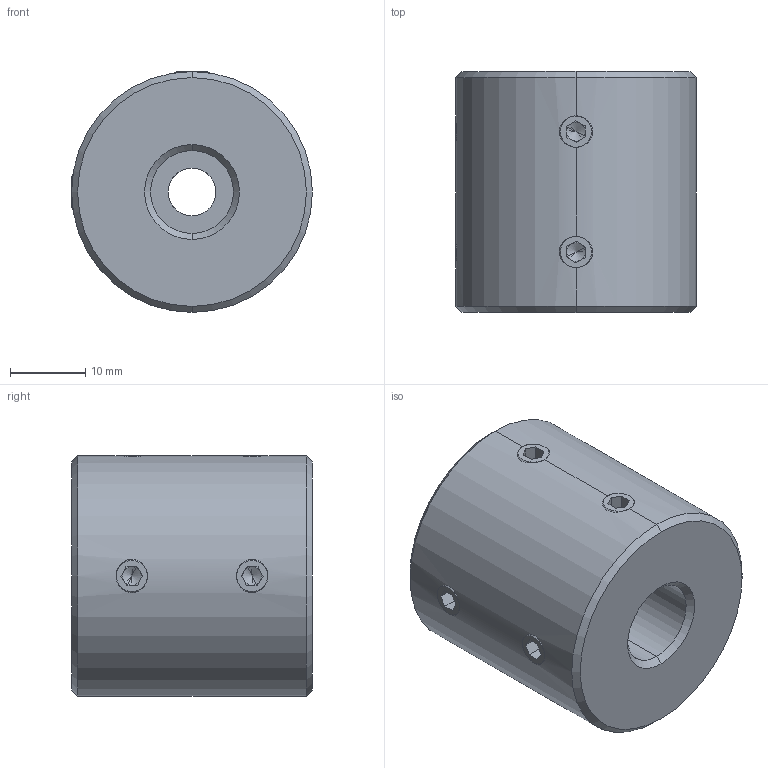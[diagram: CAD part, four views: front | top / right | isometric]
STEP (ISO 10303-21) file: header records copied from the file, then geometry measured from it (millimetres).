
FILE_DESCRIPTION (( 'STEP AP214' ), '1' );
FILE_NAME ('LL-D-D32L32-6.35-11½¨Ä£.STEP', '2022-07-22T11:22:16', ( '' ), ( '' ), 'SwSTEP 2.0', 'SolidWorks 2022', '' );
FILE_SCHEMA (( 'AUTOMOTIVE_DESIGN' ));
Length unit declared in the file: millimetre
Products named in the file (1): LL-D-D32L32-6.35-11膘耀
Bounding box: 32 x 32 x 32 mm (x, y, z)
Volume: 23366.9 mm3; surface area: 5820.8 mm2
Topology: 1 solids, 1 shells, 113 faces, 286 edges, 176 vertices
Faces by surface type: plane 59, cone 32, cylinder 22
Entity records: 3754 total; most frequent: CARTESIAN_POINT 1044, DIRECTION 558, ORIENTED_EDGE 556, EDGE_CURVE 278, AXIS2_PLACEMENT_3D 206, VERTEX_POINT 176, LINE 146, VECTOR 146
